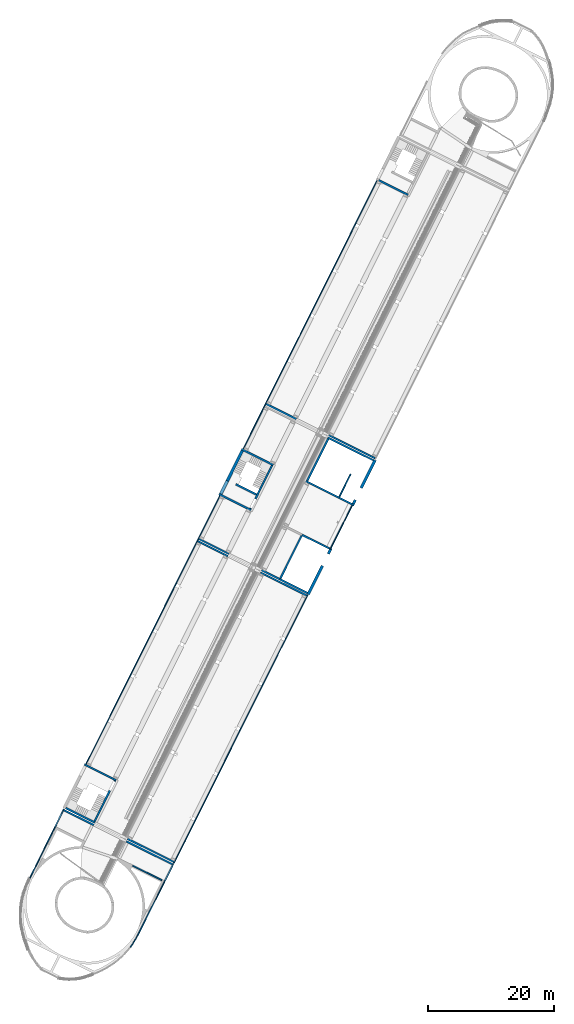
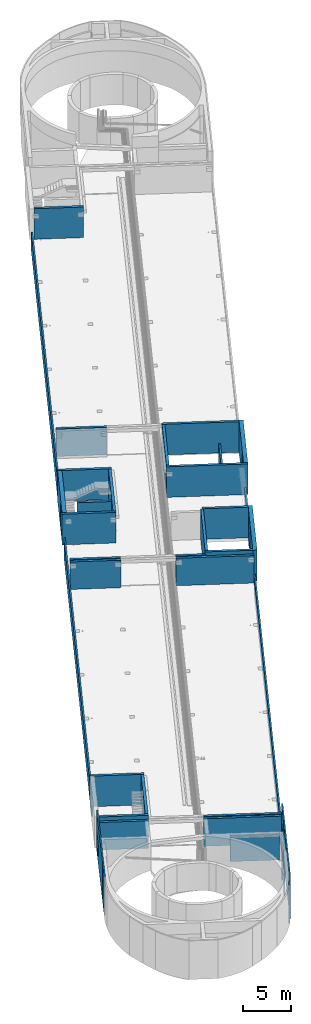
# One storey, part 7 of 47: 38 walls, 8 openings.
"""IFC2X3 building model written with IfcOpenShell, lengths in metres."""

from ifc_helpers import new_model, entity, si_unit, converted_unit, derived_unit, direction, frame, frame_2d, origin, origin_2d_with_axis, place, context, subcontext, project, spatial, polyline, circle_curve, parameter, trimmed, segment, composite_curve, rectangle, outline, extrude, clip, bounded_halfspace, material, layer, layer_set, layer_usage, type_object, element, save


model = new_model("IFC2X3")

# Units and contexts
model_context = context("Model", 3, precision=1e-05, world=origin(), true_north=direction((0.894925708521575, 0.446215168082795)))
context_of_model = context(None, 3, precision=1e-05, world=origin(), true_north=direction((0.894925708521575, 0.446215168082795)))
body_context = subcontext(model_context, "Body", "Model", "MODEL_VIEW")
ifc_project = project(units=[si_unit("LENGTHUNIT", "METRE"), si_unit("AREAUNIT", "SQUARE_METRE"), si_unit("VOLUMEUNIT", "CUBIC_METRE"), converted_unit("PLANEANGLEUNIT", "DEGREE", entity("IfcRatioMeasure", 0.0174532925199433), si_unit("PLANEANGLEUNIT", "RADIAN"), dimensions=[0, 0, 0, 0, 0, 0, 0]), si_unit("MASSUNIT", "GRAM", prefix="KILO"), si_unit("TIMEUNIT", "SECOND"), si_unit("FREQUENCYUNIT", "HERTZ"), si_unit("THERMODYNAMICTEMPERATUREUNIT", "DEGREE_CELSIUS"), derived_unit("THERMALTRANSMITTANCEUNIT", [(si_unit("MASSUNIT", "GRAM", prefix="KILO"), 1), (si_unit("THERMODYNAMICTEMPERATUREUNIT", "KELVIN"), -1), (si_unit("TIMEUNIT", "SECOND"), -3)]), derived_unit("VOLUMETRICFLOWRATEUNIT", [(si_unit("LENGTHUNIT", "METRE"), 3), (si_unit("TIMEUNIT", "SECOND"), -1)]), si_unit("ELECTRICCURRENTUNIT", "AMPERE"), si_unit("ELECTRICVOLTAGEUNIT", "VOLT"), si_unit("POWERUNIT", "WATT"), si_unit("FORCEUNIT", "NEWTON", prefix="KILO"), si_unit("ILLUMINANCEUNIT", "LUX"), si_unit("LUMINOUSFLUXUNIT", "LUMEN"), si_unit("LUMINOUSINTENSITYUNIT", "CANDELA"), si_unit("PRESSUREUNIT", "PASCAL")], contexts=[model_context, context_of_model])

# Site, building, storey
site_placement = place(None, frame((218.228324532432, 584.720189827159, 0.0), z_axis=(0.0, 0.0, 1.0), x_axis=(0.446215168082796, 0.894925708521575, 0.0)))
site = spatial("IfcSite", under=ifc_project, at=site_placement, Name="Default", CompositionType="ELEMENT")
building_placement = place(site_placement, origin())
building = spatial("IfcBuilding", under=site, at=building_placement, CompositionType="ELEMENT")
storey_placement = place(building_placement, frame((0.0, 0.0, 4.69)))
storey = spatial("IfcBuildingStorey", under=building, at=storey_placement, Name="1 - Piano Primo", CompositionType="ELEMENT", Elevation=4.69)

# Wall, opening
ifc_material_1 = material(Name="Alluminio")
ifc_layer_1 = layer(ifc_material_1, 0.15)
ifc_material_2 = material(Name="Default - Calcestruzzo")
ifc_layer_2 = layer(ifc_material_2, 0.3)
ifc_material_3 = material(Name="Intonaco - Bianco")
ifc_layer_3 = layer(ifc_material_3, 0.02)
ifc_layer_set_1 = layer_set([ifc_layer_1, ifc_layer_2, ifc_layer_3], Name="Muro di base:Setto CA rivestito int-est 47 cm")
ifc_layer_usage_1 = layer_usage(ifc_layer_set_1, "AXIS2", "NEGATIVE", 0.235)
wall_type_1 = type_object("IfcWallType", Name="Muro di base:Setto CA rivestito int-est 47 cm", PredefinedType="STANDARD", material=ifc_layer_set_1)
wall_1_placement = place(storey_placement, frame((-4.67578502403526, 6.22392100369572, 0.0)))
wall_1 = element("IfcWallStandardCase", 1, at=wall_1_placement, inside=storey, type_object=wall_type_1, material=ifc_layer_usage_1, Name="Muro di base:Setto CA rivestito int-est 47 cm", ObjectType="Muro di base:Setto CA rivestito int-est 47 cm", context=body_context, shape_type="SweptSolid", body=[
    extrude(rectangle(XDim=7.68000000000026, YDim=0.469999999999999, at=frame_2d((3.84000000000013, 0.0), x_axis=(-1.0, 0.0))), origin(), (0.0, 0.0, 1.0), 3.92),
])
opening_1_placement = place(wall_1_placement, frame((0.0100000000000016, -1.289, 0.159999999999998)))
element("IfcOpeningElement", 2, at=opening_1_placement, cuts=wall_1, Name="Muro di base:Setto CA rivestito int-est 47 cm", ObjectType="Opening", context=body_context, shape_type="SweptSolid", body=[
    extrude(rectangle(XDim=3.35, YDim=2.3, at=frame_2d((2.22044604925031e-16, 0.0), x_axis=(1.0, 0.0))), frame((1.15, 0.0, 1.675), z_axis=(0.0, 1.0, 0.0), x_axis=(0.0, 0.0, -1.0)), (0.0, 0.0, 1.0), 3.048),
])

# Walls
ifc_layer_4 = layer(ifc_material_2, 0.3)
ifc_layer_5 = layer(ifc_material_3, 0.01)
ifc_layer_set_2 = layer_set([ifc_layer_4, ifc_layer_5], Name="Muro di base:Setto CA rivestito int - 31 cm")
ifc_layer_usage_2 = layer_usage(ifc_layer_set_2, "AXIS2", "NEGATIVE", 0.155)
wall_type_2 = type_object("IfcWallType", Name="Muro di base:Setto CA rivestito int - 31 cm", PredefinedType="STANDARD", material=ifc_layer_set_2)
wall_2_placement = place(storey_placement, frame((-52.8544493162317, 6.45892100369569, 0.0), z_axis=(0.0, 0.0, 1.0), x_axis=(0.0, -1.0, 0.0)))
element("IfcWallStandardCase", 3, at=wall_2_placement, inside=storey, type_object=wall_type_2, material=ifc_layer_usage_2, Name="Muro di base:Setto CA rivestito int - 31 cm", ObjectType="Muro di base:Setto CA rivestito int - 31 cm", context=body_context, shape_type="SweptSolid", body=[
    extrude(rectangle(XDim=5.65999999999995, YDim=0.309999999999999, at=frame_2d((2.82999999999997, 0.0), x_axis=(-1.0, 0.0))), origin(), (0.0, 0.0, 1.0), 3.92),
])
ifc_layer_usage_3 = layer_usage(ifc_layer_set_2, "AXIS2", "NEGATIVE", 0.155)
wall_3_placement = place(storey_placement, frame((-60.3744493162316, 0.798921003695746, 0.0), z_axis=(0.0, 0.0, 1.0), x_axis=(0.0, 1.0, 0.0)))
element("IfcWallStandardCase", 4, at=wall_3_placement, inside=storey, type_object=wall_type_2, material=ifc_layer_usage_3, Name="Muro di base:Setto CA rivestito int - 31 cm", ObjectType="Muro di base:Setto CA rivestito int - 31 cm", context=body_context, shape_type="SweptSolid", body=[
    extrude(rectangle(XDim=5.18999999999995, YDim=0.309999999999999, at=frame_2d((2.59499999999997, 0.0), x_axis=(-1.0, 0.0))), origin(), (0.0, 0.0, 1.0), 3.92),
])

# Wall, opening
ifc_layer_usage_4 = layer_usage(ifc_layer_set_2, "AXIS2", "NEGATIVE", 0.155)
wall_4_placement = place(storey_placement, frame((-53.0094493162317, 0.953921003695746, 0.0), z_axis=(0.0, 0.0, 1.0), x_axis=(-1.0, 0.0, 0.0)))
wall_4 = element("IfcWallStandardCase", 5, at=wall_4_placement, inside=storey, type_object=wall_type_2, material=ifc_layer_usage_4, Name="Muro di base:Setto CA rivestito int - 31 cm", ObjectType="Muro di base:Setto CA rivestito int - 31 cm", context=body_context, shape_type="SweptSolid", body=[
    extrude(rectangle(XDim=7.20999999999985, YDim=0.31, at=frame_2d((3.60499999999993, 0.0), x_axis=(-1.0, 0.0))), origin(), (0.0, 0.0, 1.0), 3.92),
])
opening_2_placement = place(wall_4_placement, frame((1.73, 1.369, 0.0)))
element("IfcOpeningElement", 6, at=opening_2_placement, cuts=wall_4, Name="Muro di base:Setto CA rivestito int - 31 cm", ObjectType="Opening", context=body_context, shape_type="SweptSolid", body=[
    extrude(rectangle(XDim=2.15, YDim=1.6, at=frame_2d((0.0, -3.33066907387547e-16), x_axis=(0.0, 1.0))), frame((-0.8, -3.048, 1.075), z_axis=(0.0, 1.0, 0.0), x_axis=(1.0, 0.0, 0.0)), (0.0, 0.0, 1.0), 3.048),
])

# Walls
ifc_layer_usage_5 = layer_usage(ifc_layer_set_2, "AXIS2", "NEGATIVE", 0.155)
wall_5_placement = place(storey_placement, frame((-4.83078502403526, 0.798921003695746, 0.0), z_axis=(0.0, 0.0, 1.0), x_axis=(0.0, 1.0, 0.0)))
element("IfcWallStandardCase", 7, at=wall_5_placement, inside=storey, type_object=wall_type_2, material=ifc_layer_usage_5, Name="Muro di base:Setto CA rivestito int - 31 cm", ObjectType="Muro di base:Setto CA rivestito int - 31 cm", context=body_context, shape_type="SweptSolid", body=[
    extrude(rectangle(XDim=5.65999999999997, YDim=0.31, at=frame_2d((2.82999999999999, 0.0), x_axis=(-1.0, 0.0))), origin(), (0.0, 0.0, 1.0), 3.92),
])
ifc_layer_usage_6 = layer_usage(ifc_layer_set_2, "AXIS2", "NEGATIVE", 0.155)
wall_6_placement = place(storey_placement, frame((3.159214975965, 6.45892100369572, 0.0), z_axis=(0.0, 0.0, 1.0), x_axis=(0.0, -1.0, 0.0)))
element("IfcWallStandardCase", 8, at=wall_6_placement, inside=storey, type_object=wall_type_2, material=ifc_layer_usage_6, Name="Muro di base:Setto CA rivestito int - 31 cm", ObjectType="Muro di base:Setto CA rivestito int - 31 cm", context=body_context, shape_type="SweptSolid", body=[
    extrude(rectangle(XDim=5.65999999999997, YDim=0.31, at=frame_2d((2.82999999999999, 0.0), x_axis=(-1.0, 0.0))), origin(), (0.0, 0.0, 1.0), 3.92),
])

# Wall, opening
ifc_layer_usage_7 = layer_usage(ifc_layer_set_2, "AXIS2", "NEGATIVE", 0.155)
wall_7_placement = place(storey_placement, frame((3.004214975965, 0.953921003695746, 0.0), z_axis=(0.0, 0.0, 1.0), x_axis=(-1.0, 0.0, 0.0)))
wall_7 = element("IfcWallStandardCase", 9, at=wall_7_placement, inside=storey, type_object=wall_type_2, material=ifc_layer_usage_7, Name="Muro di base:Setto CA rivestito int - 31 cm", ObjectType="Muro di base:Setto CA rivestito int - 31 cm", context=body_context, shape_type="SweptSolid", body=[
    extrude(rectangle(XDim=7.68000000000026, YDim=0.31, at=frame_2d((3.84000000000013, 0.0), x_axis=(-1.0, 0.0))), origin(), (0.0, 0.0, 1.0), 3.92),
])
opening_3_placement = place(wall_7_placement, frame((7.55000000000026, 1.369, 0.0)))
element("IfcOpeningElement", 10, at=opening_3_placement, cuts=wall_7, Name="Muro di base:Setto CA rivestito int - 31 cm", ObjectType="Opening", context=body_context, shape_type="SweptSolid", body=[
    extrude(rectangle(XDim=2.15, YDim=1.6, at=frame_2d((0.0, -3.33066907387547e-16), x_axis=(0.0, 1.0))), frame((-0.8, -3.048, 1.075), z_axis=(0.0, 1.0, 0.0), x_axis=(1.0, 0.0, 0.0)), (0.0, 0.0, 1.0), 3.048),
])

# Wall
ifc_layer_usage_8 = layer_usage(ifc_layer_set_2, "AXIS2", "NEGATIVE", 0.155)
wall_8_placement = place(storey_placement, frame((51.1609369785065, 0.798921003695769, 0.0), z_axis=(0.0, 0.0, 1.0), x_axis=(0.0, 1.0, 0.0)))
element("IfcWallStandardCase", 11, at=wall_8_placement, inside=storey, type_object=wall_type_2, material=ifc_layer_usage_8, Name="Muro di base:Setto CA rivestito int - 31 cm", ObjectType="Muro di base:Setto CA rivestito int - 31 cm", context=body_context, shape_type="SweptSolid", body=[
    extrude(rectangle(XDim=5.19000000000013, YDim=0.309999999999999, at=frame_2d((2.59500000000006, 0.0), x_axis=(-1.0, 0.0))), origin(), (0.0, 0.0, 1.0), 3.92),
])

# Wall, opening
ifc_layer_6 = layer(ifc_material_1, 0.15)
ifc_layer_7 = layer(ifc_material_2, 0.3)
ifc_layer_set_3 = layer_set([ifc_layer_6, ifc_layer_7], Name="Muro di base:Setto CA rivestito est 45")
ifc_layer_usage_9 = layer_usage(ifc_layer_set_3, "AXIS2", "NEGATIVE", 0.225)
wall_type_3 = type_object("IfcWallType", Name="Muro di base:Setto CA rivestito est 45", PredefinedType="NOTDEFINED")
wall_9_placement = place(storey_placement, frame((-4.58437167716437, -13.3360789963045, 0.0), z_axis=(0.0, 0.0, 1.0), x_axis=(-1.0, 0.0, 0.0)))
wall_9 = element("IfcWallStandardCase", 12, at=wall_9_placement, inside=storey, type_object=wall_type_3, material=ifc_layer_usage_9, Name="Muro di base:Setto CA rivestito est 45", ObjectType="Muro di base:Setto CA rivestito est 45", context=body_context, shape_type="SweptSolid", body=[
    extrude(rectangle(XDim=8.1999999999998, YDim=0.450000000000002, at=frame_2d((4.0999999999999, 9.43689570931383e-16), x_axis=(-1.0, 0.0))), origin(), (0.0, 0.0, 1.0), 3.92),
])
opening_4_placement = place(wall_9_placement, frame((3.10939891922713, 1.74900000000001, -0.21)))
element("IfcOpeningElement", 13, at=opening_4_placement, cuts=wall_9, Name="Muro di base:Setto CA rivestito est 45", ObjectType="Opening", context=body_context, shape_type="SweptSolid", body=[
    extrude(rectangle(XDim=3.8, YDim=2.1, at=frame_2d((-2.22044604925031e-16, 5.55111512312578e-16), x_axis=(1.0, 0.0))), frame((-1.05, -3.04800000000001, 1.9), z_axis=(0.0, 1.0, 0.0), x_axis=(0.0, 0.0, -1.0)), (0.0, 0.0, 1.0), 3.048),
])

ifc_layer_usage_10 = layer_usage(ifc_layer_set_3, "AXIS2", "NEGATIVE", 0.225)
wall_10_placement = place(storey_placement, frame((11.0942149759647, -13.3360789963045, 0.0), z_axis=(0.0, 0.0, 1.0), x_axis=(-1.0, 0.0, 0.0)))
wall_10 = element("IfcWallStandardCase", 14, at=wall_10_placement, inside=storey, type_object=wall_type_3, material=ifc_layer_usage_10, Name="Muro di base:Setto CA rivestito est 45", ObjectType="Muro di base:Setto CA rivestito est 45", context=body_context, shape_type="SweptSolid", body=[
    extrude(rectangle(XDim=7.77999999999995, YDim=0.450000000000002, at=frame_2d((3.88999999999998, 4.71844785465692e-16), x_axis=(-1.0, 0.0))), origin(), (0.0, 0.0, 1.0), 3.92),
])
opening_5_placement = place(wall_10_placement, frame((7.07999999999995, 1.29900000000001, -0.21)))
element("IfcOpeningElement", 15, at=opening_5_placement, cuts=wall_10, Name="Muro di base:Setto CA rivestito est 45", ObjectType="Opening", context=body_context, shape_type="SweptSolid", body=[
    extrude(rectangle(XDim=3.8, YDim=2.1, at=frame_2d((2.22044604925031e-16, -2.22044604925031e-16), x_axis=(0.0, 1.0))), frame((-1.05, -3.04800000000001, 1.9), z_axis=(0.0, 1.0, 0.0), x_axis=(1.0, 0.0, 0.0)), (0.0, 0.0, 1.0), 3.048),
])

# Walls
ifc_layer_8 = layer(ifc_material_2, 0.3)
ifc_layer_set_4 = layer_set([ifc_layer_8], Name="Muro di base:Setto CA - 30 cm")
ifc_layer_usage_11 = layer_usage(ifc_layer_set_4, "AXIS2", "NEGATIVE", 0.15)
wall_type_4 = type_object("IfcWallType", Name="Muro di base:Setto CA - 30 cm", PredefinedType="STANDARD", material=ifc_layer_set_4)
wall_11_placement = place(storey_placement, frame((-12.6343716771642, -13.1110789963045, 0.0), z_axis=(0.0, 0.0, 1.0), x_axis=(0.0, 1.0, 0.0)))
element("IfcWallStandardCase", 16, at=wall_11_placement, inside=storey, type_object=wall_type_4, material=ifc_layer_usage_11, Name="Muro di base:Setto CA - 30 cm", ObjectType="Muro di base:Setto CA - 30 cm", context=body_context, shape_type="SweptSolid", body=[
    extrude(rectangle(XDim=5.01000000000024, YDim=0.300000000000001, at=frame_2d((2.50500000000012, -5.41233724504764e-16), x_axis=(-1.0, 0.0))), origin(), (0.0, 0.0, 1.0), 3.92),
])
ifc_layer_usage_12 = layer_usage(ifc_layer_set_4, "AXIS2", "NEGATIVE", 0.15)
wall_12_placement = place(storey_placement, frame((-12.4843716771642, -8.25107899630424, 0.0)))
element("IfcWallStandardCase", 17, at=wall_12_placement, inside=storey, type_object=wall_type_4, material=ifc_layer_usage_12, Name="Muro di base:Setto CA - 30 cm", ObjectType="Muro di base:Setto CA - 30 cm", context=body_context, shape_type="SweptSolid", body=[
    extrude(rectangle(XDim=7.59999999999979, YDim=0.299999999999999, at=frame_2d((3.7999999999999, 0.0), x_axis=(-1.0, 0.0))), origin(), (0.0, 0.0, 1.0), 3.92),
])
ifc_layer_usage_13 = layer_usage(ifc_layer_set_4, "AXIS2", "NEGATIVE", 0.15)
wall_13_placement = place(storey_placement, frame((3.16421497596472, -13.5610789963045, 0.0), z_axis=(0.0, 0.0, 1.0), x_axis=(0.0, 1.0, 0.0)))
element("IfcWallStandardCase", 18, at=wall_13_placement, inside=storey, type_object=wall_type_4, material=ifc_layer_usage_13, Name="Muro di base:Setto CA - 30 cm", ObjectType="Muro di base:Setto CA - 30 cm", context=body_context, shape_type="SweptSolid", body=[
    extrude(rectangle(XDim=8.55999999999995, YDim=0.3, at=frame_2d((4.27999999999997, 0.0), x_axis=(-1.0, 0.0))), origin(), (0.0, 0.0, 1.0), 3.92),
])
ifc_layer_usage_14 = layer_usage(ifc_layer_set_4, "AXIS2", "NEGATIVE", 0.15)
wall_14_placement = place(storey_placement, frame((10.9442149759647, -5.00107899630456, 0.0), z_axis=(0.0, 0.0, 1.0), x_axis=(0.0, -1.0, 0.0)))
element("IfcWallStandardCase", 19, at=wall_14_placement, inside=storey, type_object=wall_type_4, material=ifc_layer_usage_14, Name="Muro di base:Setto CA - 30 cm", ObjectType="Muro di base:Setto CA - 30 cm", context=body_context, shape_type="SweptSolid", body=[
    extrude(rectangle(XDim=8.10999999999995, YDim=0.300000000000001, at=frame_2d((4.05499999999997, -3.46944695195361e-16), x_axis=(-1.0, 0.0))), origin(), (0.0, 0.0, 1.0), 3.92),
])
ifc_layer_usage_15 = layer_usage(ifc_layer_set_4, "AXIS2", "NEGATIVE", 0.15)
wall_15_placement = place(storey_placement, frame((3.31421497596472, -5.15107899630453, 0.0)))
element("IfcWallStandardCase", 20, at=wall_15_placement, inside=storey, type_object=wall_type_4, material=ifc_layer_usage_15, Name="Muro di base:Setto CA - 30 cm", ObjectType="Muro di base:Setto CA - 30 cm", context=body_context, shape_type="SweptSolid", body=[
    extrude(rectangle(XDim=7.47999999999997, YDim=0.299999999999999, at=frame_2d((3.73999999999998, 5.55111512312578e-17), x_axis=(-1.0, 0.0))), origin(), (0.0, 0.0, 1.0), 3.92),
])
ifc_layer_usage_16 = layer_usage(ifc_layer_set_4, "AXIS2", "NEGATIVE", 0.15)
wall_16_placement = place(storey_placement, frame((-4.73437167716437, -8.10107899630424, 0.0), z_axis=(0.0, 0.0, 1.0), x_axis=(0.0, -1.0, 0.0)))
element("IfcWallStandardCase", 21, at=wall_16_placement, inside=storey, type_object=wall_type_4, material=ifc_layer_usage_16, Name="Muro di base:Setto CA - 30 cm", ObjectType="Muro di base:Setto CA - 30 cm", context=body_context, shape_type="SweptSolid", body=[
    extrude(rectangle(XDim=4.86000000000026, YDim=0.3, at=frame_2d((2.58000000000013, 0.0), x_axis=(-1.0, 0.0))), origin(), (0.0, 0.0, 1.0), 3.92),
])
ifc_layer_usage_17 = layer_usage(ifc_layer_set_4, "AXIS2", "NEGATIVE", 0.15)
wall_17_placement = place(storey_placement, frame((-12.6343716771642, -8.25107899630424, 0.0), z_axis=(0.0, 0.0, 1.0), x_axis=(0.0, 1.0, 0.0)))
element("IfcWallStandardCase", 22, at=wall_17_placement, inside=storey, type_object=wall_type_4, material=ifc_layer_usage_17, Name="Muro di base:Setto CA - 30 cm", ObjectType="Muro di base:Setto CA - 30 cm", context=body_context, shape_type="Clipping", body=[
    clip(extrude(rectangle(XDim=3.24999999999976, YDim=0.300000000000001, at=frame_2d((1.62499999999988, 2.91433543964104e-16), x_axis=(-1.0, 0.0))), origin(), (0.0, 0.0, 1.0), 3.52), bounded_halfspace(frame((0.150000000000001, -0.149999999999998, 3.52), z_axis=(0.0, 0.0, -1.0), x_axis=(1.0, 0.0, 0.0)), True, frame((0.150000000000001, -0.149999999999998, 3.52)), polyline([(0.0, 0.0), (3.09999999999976, 0.0), (3.09999999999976, 0.299999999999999), (0.0, 0.299999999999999), (0.0, 0.0)]))),
])
ifc_material_4 = material(Name="Sabbia e Calcestruzzo")
ifc_layer_9 = layer(ifc_material_4, 0.2)
ifc_layer_set_5 = layer_set([ifc_layer_9], Name="Muro di base:Blocchetti - 20 cm")
ifc_layer_usage_18 = layer_usage(ifc_layer_set_5, "AXIS2", "NEGATIVE", 0.1)
wall_type_5 = type_object("IfcWallType", Name="Muro di base:Blocchetti - 20 cm", PredefinedType="STANDARD", material=ifc_layer_set_5)
wall_18_placement = place(storey_placement, frame((3.31421497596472, -10.8510789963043, 0.0)))
element("IfcWallStandardCase", 23, at=wall_18_placement, inside=storey, type_object=wall_type_5, material=ifc_layer_usage_18, Name="Muro di base:Blocchetti - 20 cm", ObjectType="Muro di base:Blocchetti - 20 cm", context=body_context, shape_type="Clipping", body=[
    clip(extrude(rectangle(XDim=4.02, YDim=0.200000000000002, at=frame_2d((2.01, -4.02455846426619e-16), x_axis=(-1.0, 0.0))), origin(), (0.0, 0.0, 1.0), 3.64), bounded_halfspace(frame((0.0, -0.0999999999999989, 3.64), z_axis=(0.0, 0.0, -1.0), x_axis=(-1.0, 0.0, 0.0)), True, frame((0.0, -0.0999999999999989, 3.64)), polyline([(0.0, 0.0), (4.02, 0.0), (4.02, 0.199999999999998), (0.0, 0.2), (0.0, 0.0)]))),
])
ifc_layer_usage_19 = layer_usage(ifc_layer_set_5, "AXIS2", "NEGATIVE", 0.1)
wall_19_placement = place(storey_placement, frame((-63.8294493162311, -12.8010845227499, 0.0), z_axis=(0.0, 0.0, 1.0), x_axis=(0.0, 1.0, 0.0)))
element("IfcWallStandardCase", 24, at=wall_19_placement, inside=storey, type_object=wall_type_5, material=ifc_layer_usage_19, Name="Muro di base:Blocchetti - 20 cm", ObjectType="Muro di base:Blocchetti - 20 cm", context=body_context, shape_type="SweptSolid", body=[
    extrude(rectangle(XDim=5.1900055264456, YDim=0.200000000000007, at=frame_2d((2.5950027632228, 0.0), x_axis=(-1.0, 0.0))), origin(), (0.0, 0.0, 1.0), 3.12),
])

# Wall, opening
ifc_layer_10 = layer(ifc_material_1, 0.15)
ifc_layer_set_6 = layer_set([ifc_layer_10], Name="Muro di base:Rivestimento 15 cm")
ifc_layer_usage_20 = layer_usage(ifc_layer_set_6, "AXIS2", "NEGATIVE", 0.075)
wall_type_6 = type_object("IfcWallType", Name="Muro di base:Rivestimento 15 cm", PredefinedType="STANDARD", material=ifc_layer_set_6)
wall_20_placement = place(storey_placement, frame((-63.7294493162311, -13.2760845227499, -4.69)))
wall_20 = element("IfcWallStandardCase", 25, at=wall_20_placement, inside=storey, type_object=wall_type_6, material=ifc_layer_usage_20, Name="Muro di base:Rivestimento 15 cm", ObjectType="Muro di base:Rivestimento 15 cm", context=body_context, shape_type="SweptSolid", body=[
    extrude(rectangle(XDim=3.06999999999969, YDim=0.150000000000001, at=frame_2d((1.53499999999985, 5.41233724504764e-16), x_axis=(-1.0, 0.0))), origin(), (0.0, 0.0, 1.0), 4.69),
])
opening_6_placement = place(wall_20_placement, frame((0.0100000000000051, -0.0750000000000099, 0.0)))
element("IfcOpeningElement", 26, at=opening_6_placement, cuts=wall_20, Name="Muro di base:Rivestimento 15 cm", ObjectType="Opening", context=body_context, shape_type="SweptSolid", body=[
    extrude(rectangle(XDim=3.22, YDim=2.7499999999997, at=frame_2d((0.0, 4.32986979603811e-15), x_axis=(1.0, 0.0))), frame((1.37499999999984, 0.0, 1.61), z_axis=(0.0, 1.0, 0.0), x_axis=(0.0, 0.0, -1.0)), (0.0, 0.0, 1.0), 0.150000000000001),
])

ifc_layer_usage_21 = layer_usage(ifc_layer_set_6, "AXIS2", "NEGATIVE", 0.075)
wall_21_placement = place(storey_placement, frame((-70.3756888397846, 6.14523284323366, 0.0), z_axis=(0.0, 0.0, 1.0), x_axis=(0.999986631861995, 0.00517069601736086, 0.0)))
wall_21 = element("IfcWallStandardCase", 27, at=wall_21_placement, inside=storey, type_object=wall_type_6, material=ifc_layer_usage_21, Name="Muro di base:Rivestimento 15 cm", ObjectType="Muro di base:Rivestimento 15 cm", context=body_context, shape_type="SweptSolid", body=[
    extrude(rectangle(XDim=9.71636941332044, YDim=0.15, at=frame_2d((4.85818470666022, 1.66533453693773e-16), x_axis=(-1.0, 0.0))), origin(), (0.0, 0.0, 1.0), 4.95),
])
opening_7_placement = place(wall_21_placement, frame((6.64060934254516, -1.59891850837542, 1.0)))
element("IfcOpeningElement", 28, at=opening_7_placement, cuts=wall_21, Name="Muro di base:Rivestimento 15 cm", ObjectType="Opening", context=body_context, shape_type="SweptSolid", body=[
    extrude(rectangle(XDim=1.6, YDim=2.75, at=frame_2d((8.65973959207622e-15, 0.0), x_axis=(0.0, 1.0))), frame((1.39076007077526, -8.14916245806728e-05, 0.799999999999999), z_axis=(0.0, 1.0, 0.0), x_axis=(1.0, 0.0, 0.0)), (0.0, 0.0, 1.0), 3.048),
])

# Walls
ifc_layer_usage_22 = layer_usage(ifc_layer_set_6, "AXIS2", "POSITIVE", -0.075)
wall_22_placement = place(storey_placement, frame((-72.8723202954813, -13.2760847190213, 0.0)))
element("IfcWallStandardCase", 29, at=wall_22_placement, inside=storey, type_object=wall_type_6, material=ifc_layer_usage_22, Name="Muro di base:Rivestimento 15 cm", ObjectType="Muro di base:Rivestimento 15 cm", context=body_context, shape_type="SweptSolid", body=[
    extrude(outline(composite_curve([segment(trimmed(circle_curve(frame_2d((0.0445455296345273, 19.4710955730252), x_axis=(1.0, 0.0)), 19.5461465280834), [parameter(261.823824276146)], [parameter(269.868920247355)], True, "PARAMETER"), True, "CONTINUOUS"), segment(polyline([(-0.000171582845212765, -0.0749998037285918), (3.3068077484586e-07, 0.0750001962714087)]), True, "CONTINUOUS"), segment(trimmed(circle_curve(frame_2d((0.0445455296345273, 19.4710955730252), x_axis=(1.0, 0.0)), 19.3961465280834), [parameter(261.833968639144)], [parameter(269.868414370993)], True, "PARAMETER"), False, "CONTINUOUS"), segment(polyline([(-2.7105239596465, 0.271614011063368), (-2.735255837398, 0.123626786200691)]), True, "CONTINUOUS")], self_intersect=False)), origin(), (0.0, 0.0, 1.0), 4.95),
])
ifc_layer_usage_23 = layer_usage(ifc_layer_set_6, "AXIS2", "NEGATIVE", 0.075)
wall_23_placement = place(storey_placement, frame((-63.7294493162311, -13.2760845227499, 0.0), z_axis=(0.0, 0.0, 1.0), x_axis=(-1.0, 0.0, 0.0)))
element("IfcWallStandardCase", 30, at=wall_23_placement, inside=storey, type_object=wall_type_6, material=ifc_layer_usage_23, Name="Muro di base:Rivestimento 15 cm", ObjectType="Muro di base:Rivestimento 15 cm", context=body_context, shape_type="SweptSolid", body=[
    extrude(outline(polyline([(9.14287064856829, -0.0750000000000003), (9.14304256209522, 0.0750000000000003), (0.0, 0.0750000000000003), (0.0, -0.0750000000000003), (9.14287064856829, -0.0750000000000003)])), origin(), (0.0, 0.0, 1.0), 4.95),
])

# Wall, opening
ifc_layer_usage_24 = layer_usage(ifc_layer_set_6, "AXIS2", "NEGATIVE", 0.075)
wall_24_placement = place(storey_placement, frame((-63.7294493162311, -13.2760845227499, 0.0)))
wall_24 = element("IfcWallStandardCase", 31, at=wall_24_placement, inside=storey, type_object=wall_type_6, material=ifc_layer_usage_24, Name="Muro di base:Rivestimento 15 cm", ObjectType="Muro di base:Rivestimento 15 cm", context=body_context, shape_type="SweptSolid", body=[
    extrude(rectangle(XDim=3.06999999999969, YDim=0.150000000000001, at=frame_2d((1.53499999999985, 5.41233724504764e-16), x_axis=(-1.0, 0.0))), origin(), (0.0, 0.0, 1.0), 4.95),
])
opening_8_placement = place(wall_24_placement, frame((0.00999999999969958, -1.44900000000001, 1.0)))
element("IfcOpeningElement", 32, at=opening_8_placement, cuts=wall_24, Name="Muro di base:Rivestimento 15 cm", ObjectType="Opening", context=body_context, shape_type="SweptSolid", body=[
    extrude(rectangle(XDim=1.6, YDim=2.75, at=origin_2d_with_axis()), frame((1.37499999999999, 0.0, 0.799999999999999), z_axis=(0.0, 1.0, 0.0), x_axis=(0.0, 0.0, -1.0)), (0.0, 0.0, 1.0), 3.048),
])

# Walls
ifc_layer_usage_25 = layer_usage(ifc_layer_set_6, "AXIS2", "NEGATIVE", 0.075)
wall_25_placement = place(storey_placement, frame((-72.8683538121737, 6.13234385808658, 0.0), z_axis=(0.0, 0.0, 1.0), x_axis=(0.999986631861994, 0.00517069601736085, 0.0)))
element("IfcWallStandardCase", 33, at=wall_25_placement, inside=storey, type_object=wall_type_6, material=ifc_layer_usage_25, Name="Muro di base:Rivestimento 15 cm", ObjectType="Muro di base:Rivestimento 15 cm", context=body_context, shape_type="SweptSolid", body=[
    extrude(outline(polyline([(2.49269829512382, -0.0749999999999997), (2.49269829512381, 0.0750000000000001), (0.00289340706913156, 0.0749999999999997), (0.0, -0.0749999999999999), (2.49269829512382, -0.0749999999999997)])), origin(), (0.0, 0.0, 1.0), 4.95),
])
ifc_layer_11 = layer(ifc_material_2, 0.17)
ifc_layer_set_7 = layer_set([ifc_layer_11], Name="Muro di base:Pannelli Pref - 17 cm")
ifc_layer_usage_26 = layer_usage(ifc_layer_set_7, "AXIS2", "NEGATIVE", 0.085)
wall_type_7 = type_object("IfcWallType", Name="Muro di base:Pannelli Pref - 17 cm", PredefinedType="STANDARD", material=ifc_layer_set_7)
wall_26_placement = place(storey_placement, frame((-52.6994493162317, 6.21392100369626, -1.47)))
element("IfcWallStandardCase", 34, at=wall_26_placement, inside=storey, type_object=wall_type_7, material=ifc_layer_usage_26, Name="Muro di base:Pannelli Pref - 17 cm", ObjectType="Muro di base:Pannelli Pref - 17 cm", context=body_context, shape_type="SweptSolid", body=[
    extrude(rectangle(XDim=47.7136642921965, YDim=0.17, at=frame_2d((23.8568321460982, 0.0), x_axis=(-1.0, 0.0))), origin(), (0.0, 0.0, 1.0), 2.4),
])
ifc_layer_usage_27 = layer_usage(ifc_layer_set_7, "AXIS2", "NEGATIVE", 0.085)
wall_27_placement = place(storey_placement, frame((3.314214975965, 6.2139210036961, -1.47)))
element("IfcWallStandardCase", 35, at=wall_27_placement, inside=storey, type_object=wall_type_7, material=ifc_layer_usage_27, Name="Muro di base:Pannelli Pref - 17 cm", ObjectType="Muro di base:Pannelli Pref - 17 cm", context=body_context, shape_type="SweptSolid", body=[
    extrude(rectangle(XDim=47.6917220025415, YDim=0.17, at=frame_2d((23.8458610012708, 0.0), x_axis=(-1.0, 0.0))), origin(), (0.0, 0.0, 1.0), 2.4),
])
ifc_layer_usage_28 = layer_usage(ifc_layer_set_7, "AXIS2", "NEGATIVE", 0.085)
wall_28_placement = place(storey_placement, frame((3.01421497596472, -13.2860789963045, -1.47), z_axis=(0.0, 0.0, 1.0), x_axis=(-1.0, 0.0, 0.0)))
element("IfcWallStandardCase", 36, at=wall_28_placement, inside=storey, type_object=wall_type_7, material=ifc_layer_usage_28, Name="Muro di base:Pannelli Pref - 17 cm", ObjectType="Muro di base:Pannelli Pref - 17 cm", context=body_context, shape_type="SweptSolid", body=[
    extrude(rectangle(XDim=7.74858665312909, YDim=0.17, at=frame_2d((3.87429332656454, 2.35922392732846e-16), x_axis=(-1.0, 0.0))), origin(), (0.0, 0.0, 1.0), 2.4),
])
ifc_layer_usage_29 = layer_usage(ifc_layer_set_7, "AXIS2", "NEGATIVE", 0.085)
wall_29_placement = place(storey_placement, frame((-12.8843716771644, -13.2960789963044, -1.47), z_axis=(0.0, 0.0, 1.0), x_axis=(-1.0, 0.0, 0.0)))
element("IfcWallStandardCase", 37, at=wall_29_placement, inside=storey, type_object=wall_type_7, material=ifc_layer_usage_29, Name="Muro di base:Pannelli Pref - 17 cm", ObjectType="Muro di base:Pannelli Pref - 17 cm", context=body_context, shape_type="SweptSolid", body=[
    extrude(rectangle(XDim=47.675, YDim=0.17, at=frame_2d((23.8375, -3.2612801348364e-16), x_axis=(-1.0, 0.0))), origin(), (0.0, 0.0, 1.0), 2.4),
])
ifc_layer_12 = layer(ifc_material_3, 0.01)
ifc_layer_13 = layer(ifc_material_2, 0.3)
ifc_layer_14 = layer(ifc_material_3, 0.01)
ifc_layer_set_8 = layer_set([ifc_layer_12, ifc_layer_13, ifc_layer_14], Name="Muro di base:Setto CA rivestito int - est 32 cm")
ifc_layer_usage_30 = layer_usage(ifc_layer_set_8, "AXIS2", "POSITIVE", -0.16)
wall_type_8 = type_object("IfcWallType", Name="Muro di base:Setto CA rivestito int - est 32 cm", PredefinedType="STANDARD", material=ifc_layer_set_8)
wall_30_placement = place(storey_placement, frame((-2.23578502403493, 4.75392100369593, 0.0), z_axis=(0.0, 0.0, 1.0), x_axis=(0.0, -1.0, 0.0)))
element("IfcWallStandardCase", 38, at=wall_30_placement, inside=storey, type_object=wall_type_8, material=ifc_layer_usage_30, Name="Muro di base:Setto CA rivestito int - est 32 cm", ObjectType="Muro di base:Setto CA rivestito int - est 32 cm", context=body_context, shape_type="Clipping", body=[
    clip(extrude(rectangle(XDim=3.64500000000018, YDim=0.32, at=frame_2d((1.82250000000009, 0.0), x_axis=(-1.0, 0.0))), origin(), (0.0, 0.0, 1.0), 3.51), bounded_halfspace(frame((0.0, -0.16, 3.51), z_axis=(0.0, 0.0, -1.0), x_axis=(0.0, -1.0, 0.0)), True, frame((0.0, -0.16, 3.51)), polyline([(0.0, 0.0), (3.64500000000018, 0.0), (3.64500000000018, 0.320000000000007), (0.0, 0.32), (0.0, 0.0)]))),
])
wall_type_9 = type_object("IfcWallType", Name="Setto C.a.8:Setto C.a.", PredefinedType="NOTDEFINED", material=ifc_material_2)
wall_31_placement = place(storey_placement, frame((11.1942149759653, -13.2010789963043, 0.0), z_axis=(0.0, 0.0, 1.0), x_axis=(0.0, 1.0, 0.0)))
element("IfcWall", 39, at=wall_31_placement, inside=storey, type_object=wall_type_9, material=ifc_material_2, Name="Setto C.a.8:Setto C.a.", ObjectType="Setto C.a.8:Setto C.a.", context=body_context, shape_type="SweptSolid", body=[
    extrude(rectangle(XDim=0.299999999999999, YDim=8.19999999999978, at=frame_2d((0.0, 1.33226762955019e-15), x_axis=(1.0, 0.0))), frame((4.09999999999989, -0.150000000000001, 0.0), z_axis=(0.0, 0.0, 1.0), x_axis=(0.0, 1.0, 0.0)), (0.0, 0.0, 1.0), 3.52),
])
wall_type_10 = type_object("IfcWallType", Name="Setto C.a.11:Setto C.a.", PredefinedType="NOTDEFINED", material=ifc_material_2)
wall_32_placement = place(storey_placement, frame((-13.1843716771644, -13.2010789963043, 0.0), z_axis=(0.0, 0.0, 1.0), x_axis=(0.0, 1.0, 0.0)))
element("IfcWall", 40, at=wall_32_placement, inside=storey, type_object=wall_type_10, material=ifc_material_2, Name="Setto C.a.11:Setto C.a.", ObjectType="Setto C.a.11:Setto C.a.", context=body_context, shape_type="SweptSolid", body=[
    extrude(rectangle(XDim=0.299999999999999, YDim=8.19999999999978, at=frame_2d((0.0, 1.33226762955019e-15), x_axis=(1.0, 0.0))), frame((4.09999999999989, -0.150000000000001, 0.0), z_axis=(0.0, 0.0, 1.0), x_axis=(0.0, 1.0, 0.0)), (0.0, 0.0, 1.0), 3.52),
])
wall_type_11 = type_object("IfcWallType", Name="Setto C.a.12:Setto C.a.", PredefinedType="NOTDEFINED", material=ifc_material_2)
wall_33_placement = place(storey_placement, frame((-60.5297493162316, -13.2010789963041, 0.0), z_axis=(0.0, 0.0, 1.0), x_axis=(0.0, 1.0, 0.0)))
element("IfcWall", 41, at=wall_33_placement, inside=storey, type_object=wall_type_11, material=ifc_material_2, Name="Setto C.a.12:Setto C.a.", ObjectType="Setto C.a.12:Setto C.a.", context=body_context, shape_type="SweptSolid", body=[
    extrude(rectangle(XDim=0.300000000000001, YDim=8.19999999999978, at=frame_2d((0.0, 4.44089209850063e-16), x_axis=(1.0, 0.0))), frame((4.09999999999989, -0.150000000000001, 0.0), z_axis=(0.0, 0.0, 1.0), x_axis=(0.0, 1.0, 0.0)), (0.0, 0.0, 1.0), 3.52),
])
wall_type_12 = type_object("IfcWallType", Name="Setto C.a.13:Setto C.a.", PredefinedType="NOTDEFINED", material=ifc_material_2)
wall_34_placement = place(storey_placement, frame((-60.9594493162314, -13.2010789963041, 0.0), z_axis=(0.0, 0.0, 1.0), x_axis=(0.0, 1.0, 0.0)))
element("IfcWall", 42, at=wall_34_placement, inside=storey, type_object=wall_type_12, material=ifc_material_2, Name="Setto C.a.13:Setto C.a.", ObjectType="Setto C.a.13:Setto C.a.", context=body_context, shape_type="SweptSolid", body=[
    extrude(rectangle(XDim=0.300000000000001, YDim=8.19999999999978, at=origin_2d_with_axis()), frame((4.09999999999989, -0.150000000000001, 0.0), z_axis=(0.0, 0.0, 1.0), x_axis=(0.0, 1.0, 0.0)), (0.0, 0.0, 1.0), 3.52),
])
wall_type_13 = type_object("IfcWallType", Name="Setto C.a.14:Setto C.a.", PredefinedType="NOTDEFINED", material=ifc_material_2)
wall_35_placement = place(storey_placement, frame((-60.9594493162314, 0.798921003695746, 0.0), z_axis=(0.0, 0.0, 1.0), x_axis=(0.0, 1.0, 0.0)))
element("IfcWall", 43, at=wall_35_placement, inside=storey, type_object=wall_type_13, material=ifc_material_2, Name="Setto C.a.14:Setto C.a.", ObjectType="Setto C.a.14:Setto C.a.", context=body_context, shape_type="SweptSolid", body=[
    extrude(rectangle(XDim=0.300000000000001, YDim=5.32000000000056, at=origin_2d_with_axis()), frame((2.66000000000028, -0.150000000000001, 0.0), z_axis=(0.0, 0.0, 1.0), x_axis=(0.0, 1.0, 0.0)), (0.0, 0.0, 1.0), 3.52),
])
wall_type_14 = type_object("IfcWallType", Name="Setto C.a.15:Setto C.a.", PredefinedType="NOTDEFINED", material=ifc_material_2)
wall_36_placement = place(storey_placement, frame((-13.1843716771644, 0.798921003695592, 0.0), z_axis=(0.0, 0.0, 1.0), x_axis=(0.0, 1.0, 0.0)))
element("IfcWall", 44, at=wall_36_placement, inside=storey, type_object=wall_type_14, material=ifc_material_2, Name="Setto C.a.15:Setto C.a.", ObjectType="Setto C.a.15:Setto C.a.", context=body_context, shape_type="SweptSolid", body=[
    extrude(rectangle(XDim=0.299999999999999, YDim=5.32000000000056, at=origin_2d_with_axis()), frame((2.66000000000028, -0.150000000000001, 0.0), z_axis=(0.0, 0.0, 1.0), x_axis=(0.0, 1.0, 0.0)), (0.0, 0.0, 1.0), 3.52),
])
wall_type_15 = type_object("IfcWallType", Name="Setto C.a.16:Setto C.a.", PredefinedType="NOTDEFINED", material=ifc_material_2)
wall_37_placement = place(storey_placement, frame((-12.7843716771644, 0.798921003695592, 0.0), z_axis=(0.0, 0.0, 1.0), x_axis=(0.0, 1.0, 0.0)))
element("IfcWall", 45, at=wall_37_placement, inside=storey, type_object=wall_type_15, material=ifc_material_2, Name="Setto C.a.16:Setto C.a.", ObjectType="Setto C.a.16:Setto C.a.", context=body_context, shape_type="SweptSolid", body=[
    extrude(rectangle(XDim=0.299999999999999, YDim=5.32000000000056, at=origin_2d_with_axis()), frame((2.66000000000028, -0.150000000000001, 0.0), z_axis=(0.0, 0.0, 1.0), x_axis=(0.0, 1.0, 0.0)), (0.0, 0.0, 1.0), 3.52),
])
wall_type_16 = type_object("IfcWallType", Name="Setto C.a.18:Setto C.a.", PredefinedType="NOTDEFINED", material=ifc_material_2)
wall_38_placement = place(storey_placement, frame((11.1942149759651, 0.798921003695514, 0.0), z_axis=(0.0, 0.0, 1.0), x_axis=(0.0, 1.0, 0.0)))
element("IfcWall", 46, at=wall_38_placement, inside=storey, type_object=wall_type_16, material=ifc_material_2, Name="Setto C.a.18:Setto C.a.", ObjectType="Setto C.a.18:Setto C.a.", context=body_context, shape_type="SweptSolid", body=[
    extrude(rectangle(XDim=0.299999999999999, YDim=5.32000000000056, at=origin_2d_with_axis()), frame((2.66000000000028, -0.150000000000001, 0.0), z_axis=(0.0, 0.0, 1.0), x_axis=(0.0, 1.0, 0.0)), (0.0, 0.0, 1.0), 3.52),
])

save(model, "model.ifc")
